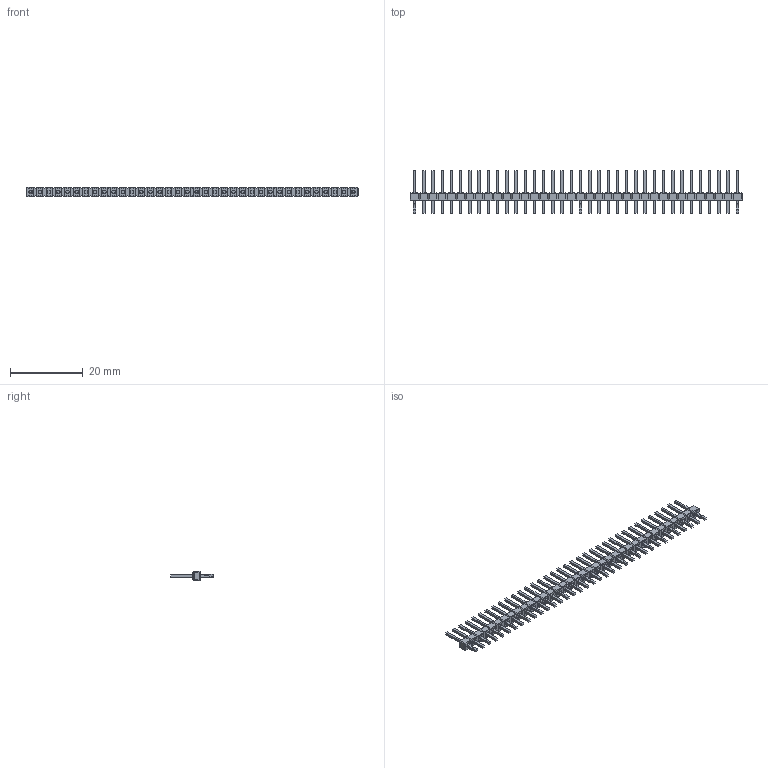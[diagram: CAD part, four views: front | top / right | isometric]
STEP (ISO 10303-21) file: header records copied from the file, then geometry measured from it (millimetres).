
FILE_DESCRIPTION((''),'2;1');
FILE_NAME('022285366','2015-04-13T',('me'),(''),'PRO/ENGINEER BY PARAMETRIC TECHNOLOGY CORPORATION, 2011490','PRO/ENGINEER BY PARAMETRIC TECHNOLOGY CORPORATION, 2011490','');
FILE_SCHEMA(('CONFIG_CONTROL_DESIGN'));
Length unit declared in the file: inch
Products named in the file (1): 022285366
Bounding box: 91.44 x 11.81 x 2.49 mm (x, y, z)
Volume: 592.8 mm3; surface area: 1962.3 mm2
Topology: 1 solids, 1 shells, 1612 faces, 4242 edges, 2844 vertices
Faces by surface type: plane 1462, cylinder 150
Entity records: 48951 total; most frequent: CARTESIAN_POINT 8627, ORIENTED_EDGE 8340, DIRECTION 7840, EDGE_CURVE 4170, VECTOR 3870, LINE 3870, VERTEX_POINT 2772, AXIS2_PLACEMENT_3D 1985
